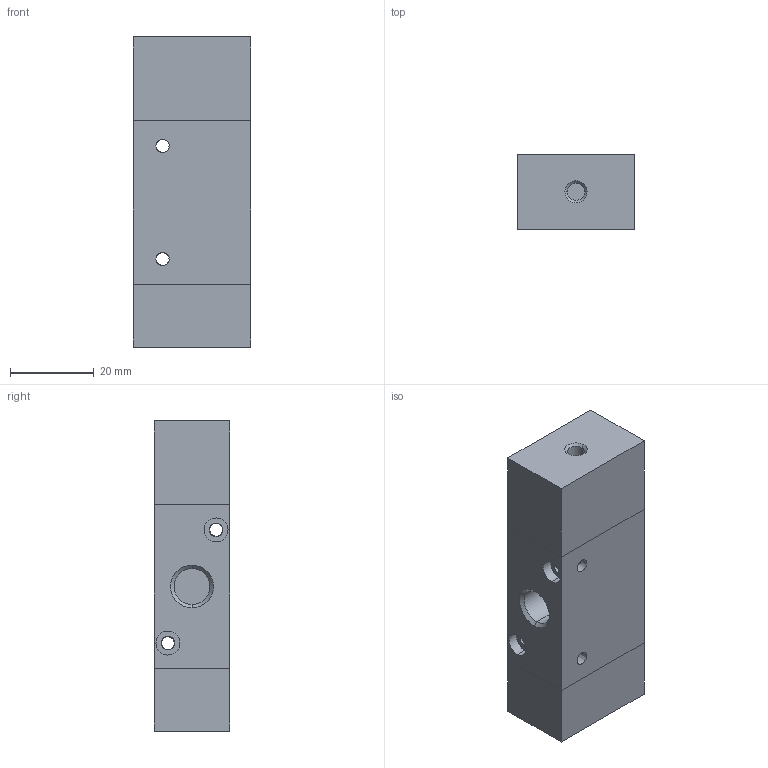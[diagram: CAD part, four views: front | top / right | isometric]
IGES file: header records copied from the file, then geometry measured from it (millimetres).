
Global section: file name: No Iges File Name specified; native system: AutoDesk Inventor R11.0; preprocessor: AutoDesk Inventor Iges Exporter R11.0; author: No Author specified; organization: No Organization specified; date: 20061201.120446; units: millimetre
Bounding box: 28 x 18 x 74 mm (x, y, z)
Volume: 34956 mm3; surface area: 9347.9 mm2
Topology: 1 solids, 1 shells, 58 faces, 136 edges, 84 vertices
Faces by surface type: bspline 34, plane 16, revolution 8
